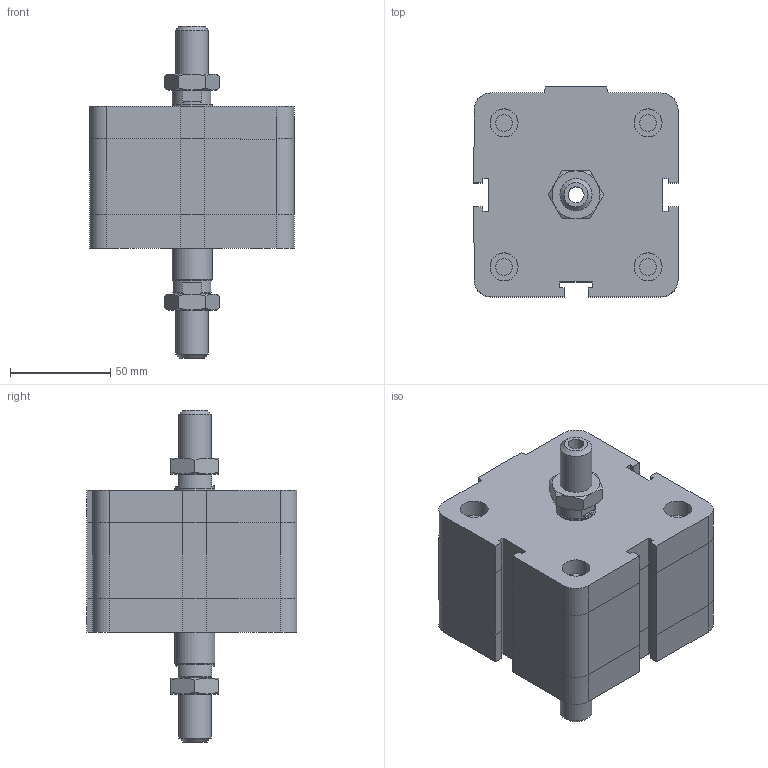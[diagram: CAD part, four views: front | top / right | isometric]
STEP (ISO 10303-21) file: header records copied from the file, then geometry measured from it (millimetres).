
FILE_DESCRIPTION((''),'2;1');
FILE_NAME('I:\Area Tecnica\Disegni\VARIE-3D\Componenti\EUROPE\15##_###_####_05_#\1561_80_0015_05_1.iam.stp','2009-04-20T14:57:28',(''),(''),'Autodesk Inventor 2009','Autodesk Inventor 2009','');
FILE_SCHEMA(('AUTOMOTIVE_DESIGN { 1 0 10303 214 1 1 1 1 }'));
Length unit declared in the file: millimetre
Products named in the file (4): 1561_80_0015_05_1; 1561_80_0015_03_1_C; 1561_80_0015_05_1_S; DBFM16
Assembly tree (4 placements, depth 2):
  1561_80_0015_05_1
    1561_80_0015_03_1_C
    1561_80_0015_05_1_S
    DBFM16  x2
Bounding box: 102 x 105 x 166 mm (x, y, z)
Volume: 719919.1 mm3; surface area: 81335.3 mm2
Topology: 4 solids, 4 shells, 223 faces, 486 edges, 291 vertices
Faces by surface type: plane 129, cone 37, bspline 32, cylinder 25
Full cylindrical faces by diameter (mm): 8.376 x4, 14 x4, 14.5 x1, 16 x1, 19.5 x2, 20 x1
Entity records: 5484 total; most frequent: CARTESIAN_POINT 1227, DIRECTION 808, ORIENTED_EDGE 776, EDGE_CURVE 388, AXIS2_PLACEMENT_3D 275, EDGE_LOOP 262, VECTOR 258, LINE 258
